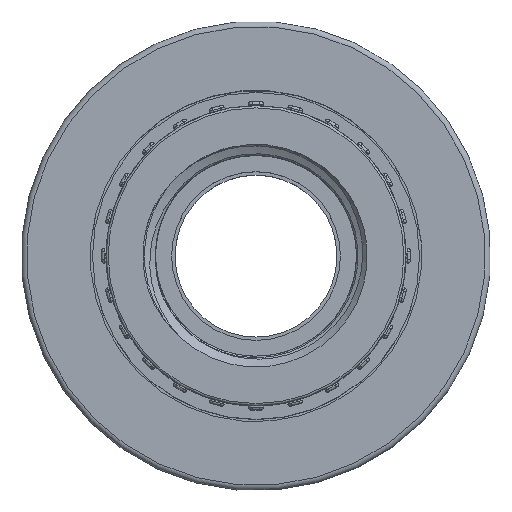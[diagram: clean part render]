
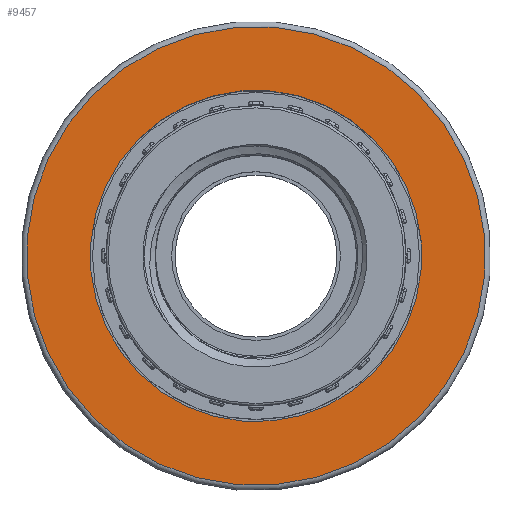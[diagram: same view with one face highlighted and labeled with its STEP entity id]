
A CAD part, top view. The second image highlights one B-rep face of the part: STEP entity #9457.
In plain terms, the highlighted planar face has unit normal (0, 0, 1).
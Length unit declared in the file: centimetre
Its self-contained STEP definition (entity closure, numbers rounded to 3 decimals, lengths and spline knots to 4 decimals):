
#1877=FACE_BOUND('',#2726,.T.);
#2185=FACE_OUTER_BOUND('',#2725,.T.);
#2725=EDGE_LOOP('',(#7222));
#2726=EDGE_LOOP('',(#7223));
#3267=CIRCLE('',#10233,2.125);
#3269=CIRCLE('',#10236,1.535);
#3960=VERTEX_POINT('',#21562);
#3962=VERTEX_POINT('',#21567);
#5110=EDGE_CURVE('',#3960,#3960,#3267,.T.);
#5112=EDGE_CURVE('',#3962,#3962,#3269,.T.);
#7222=ORIENTED_EDGE('',*,*,#5110,.F.);
#7223=ORIENTED_EDGE('',*,*,#5112,.T.);
#8545=PLANE('',#10235);
#9457=ADVANCED_FACE('',(#2185,#1877),#8545,.T.);
#10233=AXIS2_PLACEMENT_3D('',#21563,#12118,#12119);
#10235=AXIS2_PLACEMENT_3D('',#21566,#12122,#12123);
#10236=AXIS2_PLACEMENT_3D('',#21568,#12124,#12125);
#12118=DIRECTION('center_axis',(0.,0.,
-1.));
#12119=DIRECTION('ref_axis',(0.419,0.908,0.));
#12122=DIRECTION('center_axis',(0.,0.,
1.));
#12123=DIRECTION('ref_axis',(0.908,-0.419,0.));
#12124=DIRECTION('center_axis',(0.,0.,
-1.));
#12125=DIRECTION('ref_axis',(0.419,0.908,0.));
#21562=CARTESIAN_POINT('',(-0.8912,-1.9291,1.34));
#21563=CARTESIAN_POINT('Origin',(0.,0.,
1.34));
#21566=CARTESIAN_POINT('Origin',(-0.9121,-1.9745,1.34));
#21567=CARTESIAN_POINT('',(-0.6437,-1.3935,1.34));
#21568=CARTESIAN_POINT('Origin',(0.,0.,
1.34));
